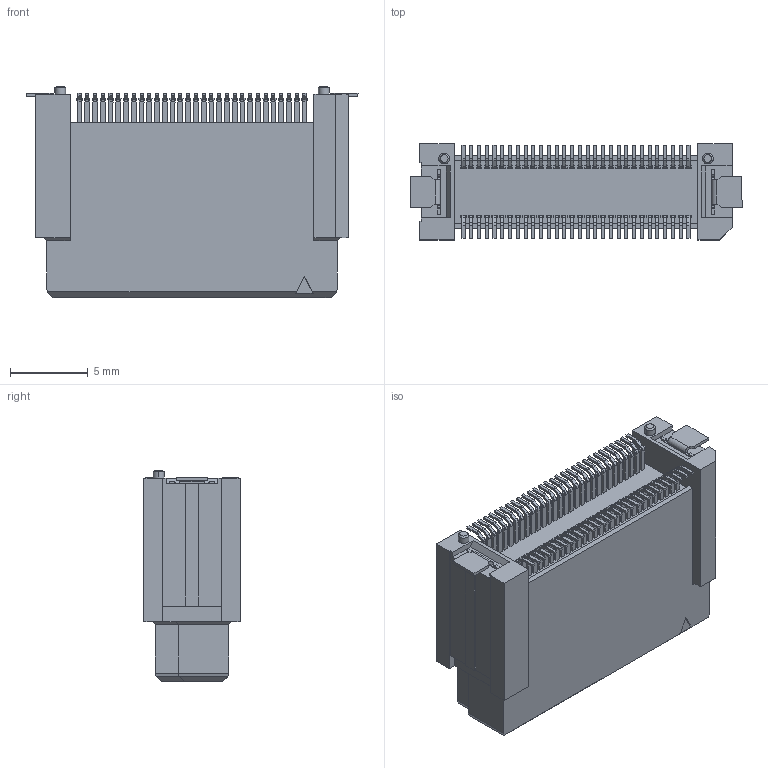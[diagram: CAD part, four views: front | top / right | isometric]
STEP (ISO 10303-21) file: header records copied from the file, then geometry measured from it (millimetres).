
FILE_DESCRIPTION(('Creo Elements/Direct Modeling STEP Export'),'2;1');
FILE_NAME('P3E233_DT11-060S-15-T.stp','2022-04-27T10:55:44',(''),(''),'Creo Elements/Direct Modeling STEP processor for AP214 (Solid Model)','Creo Elements/Direct Modeling 20.4A 18-Oct-2021 (C) Parametric Technology GmbH','');
FILE_SCHEMA(('AUTOMOTIVE_DESIGN { 1 0 10303 214 1 1 1 1 }'));
Products named in the file (2): P3E233_DT11-060S-15-T
Assembly tree (1 placements, depth 2):
  P3E233_DT11-060S-15-T
    P3E233_DT11-060S-15-T
Bounding box: 21.4 x 6.2 x 13.63 mm (x, y, z)
Volume: 1060.1 mm3; surface area: 1163.8 mm2
Topology: 1 solids, 1 shells, 1721 faces, 4905 edges, 3313 vertices
Faces by surface type: plane 1401, cylinder 316, cone 4
Entity records: 55450 total; most frequent: CARTESIAN_POINT 9858, ORIENTED_EDGE 9810, DIRECTION 9014, EDGE_CURVE 4905, VECTOR 4076, LINE 4076, VERTEX_POINT 3313, AXIS2_PLACEMENT_3D 2469
